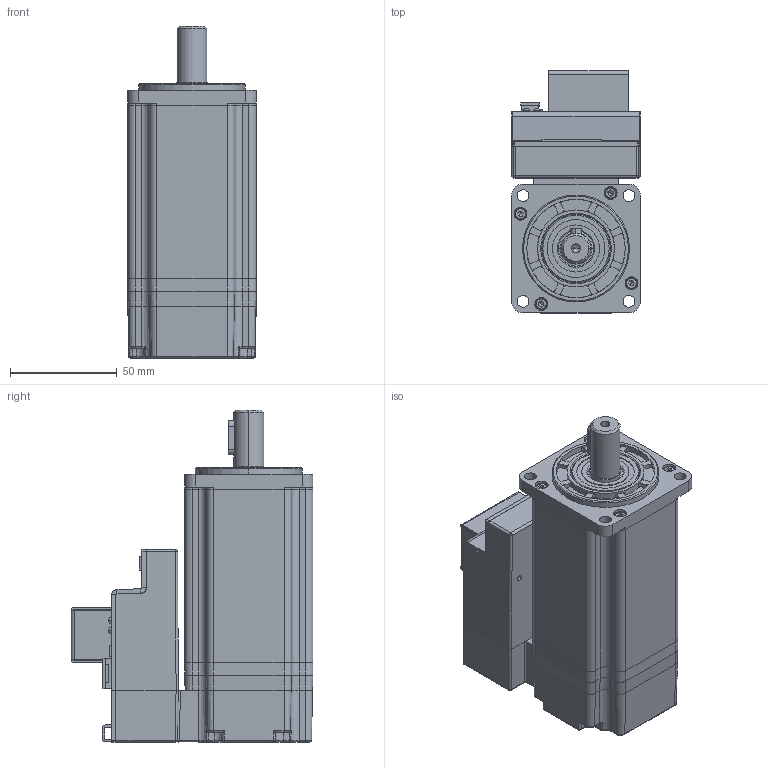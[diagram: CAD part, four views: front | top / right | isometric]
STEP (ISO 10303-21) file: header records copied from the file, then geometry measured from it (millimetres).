
FILE_DESCRIPTION (( 'STEP AP214' ), '1' );
FILE_NAME ('MD60-040-DMAK-EA-000.STEP', '2021-01-05T21:27:53', ( '' ), ( '' ), 'SwSTEP 2.0', 'SolidWorks 2020', '' );
FILE_SCHEMA (( 'AUTOMOTIVE_DESIGN' ));
Length unit declared in the file: inch
Products named in the file (62): HEXAGON_SOCKET_HEAD_CAP_S-45862; DEEP_GROOVE_BALL_BEARINGS-73536; MHM-ASM-3_ASM_5_ASM-1_PCB--4541; B12B-PUDSS-1; 000; _100_3; MHM-ASM-3_ASM_5_ASM-1_PCB-19757; TIM_PCB1; B16B-PUDSS-1; 00; 00_2; MHM-ASM-3_ASM_5_ASM-1_PCB-61784; PCB4; REAR_COVER_ASM; _4571500; _100_4; 3D00_ASM; CJTA2008WV-4P; C0VER1; O0; 00_ASM_2; WAKOU; SPRING_LOCK_WASHERS--NORM-18035; _10; MHM-ASM-3_ASM_5_ASM-1_PCB--7276; PUDP-12V-S; HEXAGON_SOCKET_HEAD_CAP_S-74654; _7367000_ASM; MHM-ASM-3_ASM_5_ASM-1_PCB-21971; PCB1; PUDP-16V-S; _7451600; CIRCLIPS_FOR_HOLES--TYPE_-73814; 00_ASM_3; PCA1_ASM; MD60HT; CIRCLIPS_FOR_HOLES--TYPE_-46292; _10_2; MD60-040-DMAK-EA-000; 0226-22XX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
Assembly tree (76 placements, depth 6):
  MD60-040-DMAK-EA-000
    REAR_COVER_ASM
      PC_7MM
      TIM_PCB1
      PCA_ASM
        PCA1_ASM
          PCB1
          MD60PCB2
          PCB4
        PH2-CHAZHUO-L-R  x2
        CJTA2008WV-4P
        0226-22XX
        LED1
        WAKOU  x2
        CJTA2008WV-2X8P
        B12B-PUDSS-1
        PUDP-12V-S
        ZLH-100V330UF
        B16B-PUDSS-1
        PUDP-16V-S
    MD60HT
    MD60HS
    C0VER1
    XJ
    3D00_ASM
      00_ASM
        HEXAGON_SOCKET_HEAD_CAP_S-45862  x4
        SPRING_LOCK_WASHERS--NORM-18035  x4
        PRODUCT_10385
        000
        HEXAGON_SOCKET_HEAD_CAP_S-74654  x4
        CIRCLIPS_FOR_SHAFT--TYPE_A_LA_1
        00
        _7451600
        _100
        _4571500
        CIRCLIPS_FOR_HOLES--TYPE_-46292
        _100_2
        O0  x2
        _7367000_ASM
          DEEP_GROOVE_BALL_BEARINGS-16906
          DEEP_GROOVE_BALL_BEARINGS-73536
          _4513900_ASM
            _10
          _100_3
        HEXAGON_SOCKET_HEAD_CAP_S-74807
        00_2
        CIRCLIPS_FOR_HOLES--TYPE_-73814
        00_ASM_2
          HEXAGON_SOCKET_HEAD_CAP_S-44990  x4
          _100_4
          _10_2
          _1000
        SPRING_LOCK_WASHERS--NORM-46433
        00_ASM_3
          MHM-ASM-3_ASM_5_ASM-1_PCB--4541
          MHM-ASM-3_ASM_5_ASM-1_PCB--7276
          MHM-ASM-3_ASM_5_ASM-1_PCB-15676
          MHM-ASM-3_ASM_5_ASM-1_PCB-19757
          MHM-ASM-3_ASM_5_ASM-1_PCB-21971
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Bounding box: 60.01 x 113.1 x 155.2 mm (x, y, z)
Volume: 252293.3 mm3; surface area: 202023.7 mm2
Topology: 71 solids, 71 shells, 4991 faces, 12793 edges, 8252 vertices
Faces by surface type: plane 3127, cylinder 1266, bspline 378, cone 212, torus 8
Entity records: 158796 total; most frequent: CARTESIAN_POINT 47161, ORIENTED_EDGE 23368, DIRECTION 21045, EDGE_CURVE 11684, VECTOR 7895, LINE 7895, VERTEX_POINT 7595, AXIS2_PLACEMENT_3D 6575
